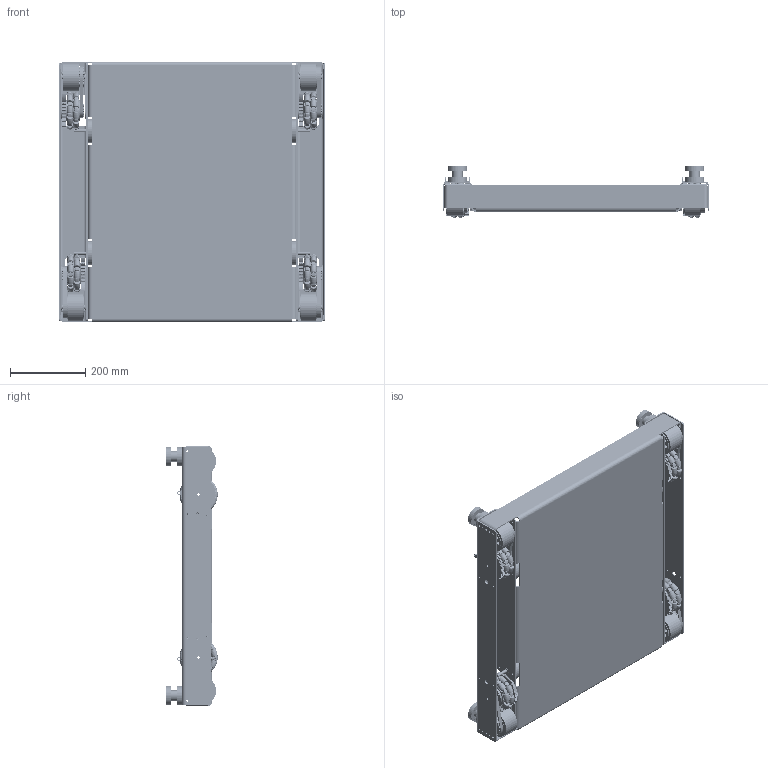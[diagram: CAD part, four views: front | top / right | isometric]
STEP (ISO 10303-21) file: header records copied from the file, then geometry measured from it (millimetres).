
FILE_DESCRIPTION (( 'STEP AP214' ), '1' );
FILE_NAME ('ButterflyTube.STEP', '2016-01-09T00:03:10', ( '' ), ( '' ), 'SwSTEP 2.0', 'SolidWorks 2015', '' );
FILE_SCHEMA (( 'AUTOMOTIVE_DESIGN' ));
Length unit declared in the file: inch
Products named in the file (69): MirrorPart2^module2; Tube_omnipivot; Mirror217-2584-003 Rev31; Part1_1; Mirrorthinversahub; Mirror217-2584-004 Rev11; Part2^module2; Mirror217-2584.20121203; ButterflyTube; Mirror217-2584-001 Rev11; thinversahub; Mirror217-2584-005 Rev1 A; Mirror217-2584-002 Rev21; 217-2584.20121203; Mirror90116A020_90116A020; Mirror22T 5mm GT2 Pulley 9mm wide1; 217-2584-005 Rev1 A; MirrorBEAM-0750; Mirrortubeaxle`1; 90116A020_90116A020; Mirror217-2584-003 Rev3; Mirrorwheel1; BEAM-0750; Mirror217-2584-004 Rev1; Mirrorfr61; 217-2584-003 Rev3; Mirror217-2584-001 Rev1; Mirrortread1; 217-2584-004 Rev1; Mirror217-2584-002 Rev2; Mirror3wheel1; 217-2584-001 Rev1; Mirror22T 5mm GT2 Pulley 9mm wide; Mirrorfr8zz1; 217-2584-002 Rev2; MirrorButterfly Wheel1; Mirrortubeaxle`; Mirrorswingarm21; 22T 5mm GT2 Pulley 9mm wide; Mirrorswingarm2nospringarm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
Assembly tree (360 placements, depth 4):
  ButterflyTube
    Tube_omnipivot  x2
    Butterfly Wheel
      swingarm2
      fr8zz  x2
      wheel
        3wheel
        tread
        fr6  x2
      tubeaxle`  x2
      22T 5mm GT2 Pulley 9mm wide
      217-2584.20121203
        217-2584-002 Rev2
        217-2584-001 Rev1  x18
        217-2584-004 Rev1  x18
        217-2584-003 Rev3  x2
        BEAM-0750  x6
        90116A020_90116A020  x18
        217-2584-005 Rev1 A  x36
      thinversahub
      Part2^module2
      Part1_1
      swingarm2nospringarm
    MirrorButterfly Wheel  x2
      Mirrorswingarm2
      Mirrorfr8zz
      Mirrorwheel
        Mirror3wheel
        Mirrortread
        Mirrorfr6  x2
      Mirrortubeaxle`
      Mirror22T 5mm GT2 Pulley 9mm wide
      Mirror217-2584.20121203
        Mirror217-2584-002 Rev2
        Mirror217-2584-001 Rev1  x18
        Mirror217-2584-004 Rev1  x18
        Mirror217-2584-003 Rev3  x2
        MirrorBEAM-0750  x6
        Mirror90116A020_90116A020  x18
        Mirror217-2584-005 Rev1 A  x36
      Mirrorthinversahub
      MirrorPart2^module2
      MirrorPart1_1
      swingarm2nospringarm
    1.0625 Piston  x4
    2.5 Cim Motor  x4
    Belly pan
    MirrorButterfly Wheel1
      Mirrorswingarm21
      Mirrorfr8zz1  x2
      Mirrorwheel1
        Mirror3wheel1
        Mirrortread1
        Mirrorfr61  x2
      Mirrortubeaxle`1  x2
      Mirror22T 5mm GT2 Pulley 9mm wide1
      Mirror217-2584.201212031
        Mirror217-2584-002 Rev21
        Mirror217-2584-001 Rev11  x18
        Mirror217-2584-004 Rev11  x18
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Bounding box: 706.15 x 136.69 x 692.15 mm (x, y, z)
Volume: 4488171.2 mm3; surface area: 2646207.5 mm2
Topology: 459 solids, 471 shells, 23342 faces, 60136 edges, 38040 vertices
Faces by surface type: cylinder 11240, plane 5710, torus 3980, bspline 1160, cone 716, sphere 536
Entity records: 517773 total; most frequent: CARTESIAN_POINT 183806, DIRECTION 64291, ORIENTED_EDGE 58442, EDGE_CURVE 29233, AXIS2_PLACEMENT_3D 26711, VERTEX_POINT 18670, CIRCLE 16117, EDGE_LOOP 12109
